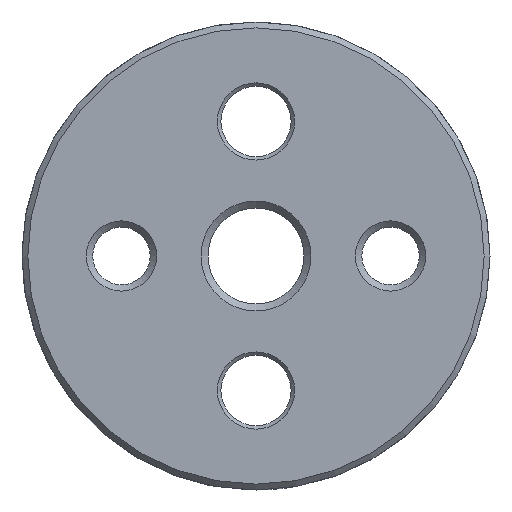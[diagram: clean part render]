
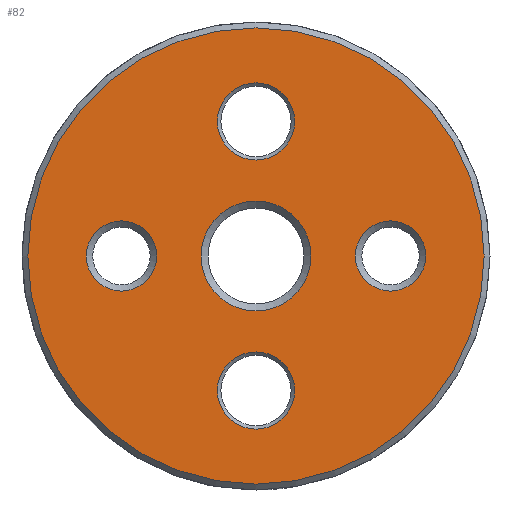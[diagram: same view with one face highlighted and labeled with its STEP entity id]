
A CAD part, front view. The second image highlights one B-rep face of the part: STEP entity #82.
In plain terms, the highlighted planar face has unit normal (0, -1, 0).
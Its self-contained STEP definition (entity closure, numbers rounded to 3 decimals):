
#82 = ADVANCED_FACE( '', ( #123, #124, #125, #126, #127, #128 ), #129, .F. );
#123 = FACE_BOUND( '', #211, .T. );
#124 = FACE_BOUND( '', #212, .T. );
#125 = FACE_BOUND( '', #213, .T. );
#126 = FACE_BOUND( '', #214, .T. );
#127 = FACE_BOUND( '', #215, .T. );
#128 = FACE_OUTER_BOUND( '', #216, .T. );
#129 = PLANE( '', #217 );
#211 = EDGE_LOOP( '', ( #341 ) );
#212 = EDGE_LOOP( '', ( #342 ) );
#213 = EDGE_LOOP( '', ( #343 ) );
#214 = EDGE_LOOP( '', ( #344 ) );
#215 = EDGE_LOOP( '', ( #345 ) );
#216 = EDGE_LOOP( '', ( #346 ) );
#217 = AXIS2_PLACEMENT_3D( '', #347, #348, #349 );
#341 = ORIENTED_EDGE( '', *, *, #506, .F. );
#342 = ORIENTED_EDGE( '', *, *, #507, .F. );
#343 = ORIENTED_EDGE( '', *, *, #508, .F. );
#344 = ORIENTED_EDGE( '', *, *, #509, .F. );
#345 = ORIENTED_EDGE( '', *, *, #510, .F. );
#346 = ORIENTED_EDGE( '', *, *, #505, .T. );
#347 = CARTESIAN_POINT( '', ( 19.5, 0., 0. ) );
#348 = DIRECTION( '', ( 0., 1., 0. ) );
#349 = DIRECTION( '', ( 0., 0., 1. ) );
#505 = EDGE_CURVE( '', #579, #579, #580, .T. );
#506 = EDGE_CURVE( '', #581, #581, #582, .T. );
#507 = EDGE_CURVE( '', #583, #583, #584, .F. );
#508 = EDGE_CURVE( '', #585, #585, #586, .T. );
#509 = EDGE_CURVE( '', #587, #587, #588, .T. );
#510 = EDGE_CURVE( '', #589, #589, #590, .T. );
#579 = VERTEX_POINT( '', #775 );
#580 = CIRCLE( '', #776, 19.5 );
#581 = VERTEX_POINT( '', #777 );
#582 = CIRCLE( '', #778, 4.7 );
#583 = VERTEX_POINT( '', #779 );
#584 = CIRCLE( '', #780, 3. );
#585 = VERTEX_POINT( '', #781 );
#586 = CIRCLE( '', #782, 3.3 );
#587 = VERTEX_POINT( '', #783 );
#588 = CIRCLE( '', #784, 3.3 );
#589 = VERTEX_POINT( '', #785 );
#590 = CIRCLE( '', #786, 3. );
#775 = CARTESIAN_POINT( '', ( 0., 0., -19.5 ) );
#776 = AXIS2_PLACEMENT_3D( '', #880, #881, #882 );
#777 = CARTESIAN_POINT( '', ( 0., 0., -4.7 ) );
#778 = AXIS2_PLACEMENT_3D( '', #883, #884, #885 );
#779 = CARTESIAN_POINT( '', ( 11.5, 0., 3. ) );
#780 = AXIS2_PLACEMENT_3D( '', #886, #887, #888 );
#781 = CARTESIAN_POINT( '', ( 0., 0., 8.2 ) );
#782 = AXIS2_PLACEMENT_3D( '', #889, #890, #891 );
#783 = CARTESIAN_POINT( '', ( 0., 0., -14.8 ) );
#784 = AXIS2_PLACEMENT_3D( '', #892, #893, #894 );
#785 = CARTESIAN_POINT( '', ( -11.5, 0., -3. ) );
#786 = AXIS2_PLACEMENT_3D( '', #895, #896, #897 );
#880 = CARTESIAN_POINT( '', ( 0., 0., 0. ) );
#881 = DIRECTION( '', ( 0., -1., 0. ) );
#882 = DIRECTION( '', ( 0., 0., -1. ) );
#883 = CARTESIAN_POINT( '', ( 0., 0., 0. ) );
#884 = DIRECTION( '', ( 0., -1., 0. ) );
#885 = DIRECTION( '', ( 0., 0., -1. ) );
#886 = CARTESIAN_POINT( '', ( 11.5, 0., 0. ) );
#887 = DIRECTION( '', ( 0., 1., 0. ) );
#888 = DIRECTION( '', ( 0., 0., 1. ) );
#889 = CARTESIAN_POINT( '', ( 0., 0., 11.5 ) );
#890 = DIRECTION( '', ( 0., -1., 0. ) );
#891 = DIRECTION( '', ( 0., 0., -1. ) );
#892 = CARTESIAN_POINT( '', ( 0., 0., -11.5 ) );
#893 = DIRECTION( '', ( 0., -1., 0. ) );
#894 = DIRECTION( '', ( 0., 0., -1. ) );
#895 = CARTESIAN_POINT( '', ( -11.5, 0., 0. ) );
#896 = DIRECTION( '', ( 0., -1., 0. ) );
#897 = DIRECTION( '', ( 0., 0., -1. ) );
